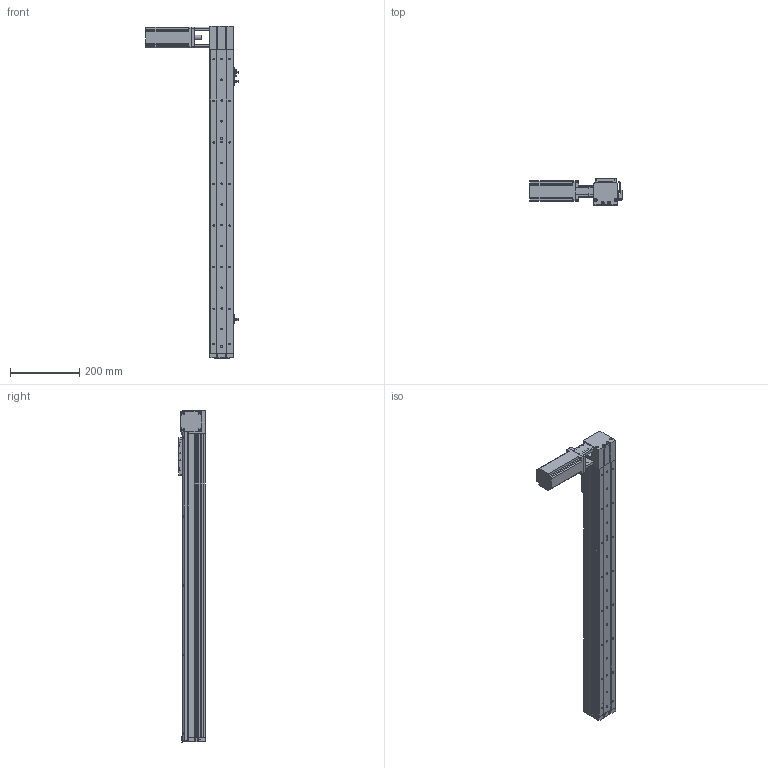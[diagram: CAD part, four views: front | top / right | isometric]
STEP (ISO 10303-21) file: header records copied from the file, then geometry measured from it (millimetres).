
FILE_DESCRIPTION (( 'STEP AP214' ), '1' );
FILE_NAME ('KSD68BS-S700-MLT-CR.STEP', '2019-08-28T03:30:23', ( '微软用户' ), ( '微软中国' ), 'SwSTEP 2.0', 'SolidWorks 2014', '' );
FILE_SCHEMA (( 'AUTOMOTIVE_DESIGN' ));
Length unit declared in the file: millimetre
Products named in the file (13): 68单导轨全封闭同步带电机座右; 68单导轨全封闭同步带安装板; 感应片68宽全封闭; U倰嫖萇EEㄜSX672; 台达ECMA－C20604AS伺服电机（400W); KSD68BS 700行程底板全封闭; KSD68BS-S700-MLT-CR; 100遵鎮湛假蚾啣1; KSD68BS 700行程盖板全封闭; 68遵裔啣揤啣1; 68宽单导轨全封闭丝杆传动安装板1防护罩; KSD68BS 700行程侧板全封闭; 68宽单导轨全封闭同步带端板
Assembly tree (16 placements, depth 2):
  KSD68BS-S700-MLT-CR
    KSD68BS 700行程底板全封闭
    台达ECMA－C20604AS伺服电机（400W)
    U倰嫖萇EEㄜSX672  x3
    感应片68宽全封闭
    68单导轨全封闭同步带安装板
    68单导轨全封闭同步带电机座右
    68宽单导轨全封闭同步带端板
    KSD68BS 700行程侧板全封闭  x2
    68宽单导轨全封闭丝杆传动安装板1防护罩
    68遵裔啣揤啣1  x2
    KSD68BS 700行程盖板全封闭
    100遵鎮湛假蚾啣1
Bounding box: 266.4 x 77 x 958.1 mm (x, y, z)
Volume: 2081681.8 mm3; surface area: 743157.6 mm2
Topology: 17 solids, 17 shells, 1398 faces, 3966 edges, 2537 vertices
Faces by surface type: cylinder 646, plane 600, cone 152
Entity records: 43921 total; most frequent: CARTESIAN_POINT 7423, DIRECTION 6548, ORIENTED_EDGE 6268, EDGE_CURVE 3134, AXIS2_PLACEMENT_3D 2352, VERTEX_POINT 2055, VECTOR 1844, LINE 1844
